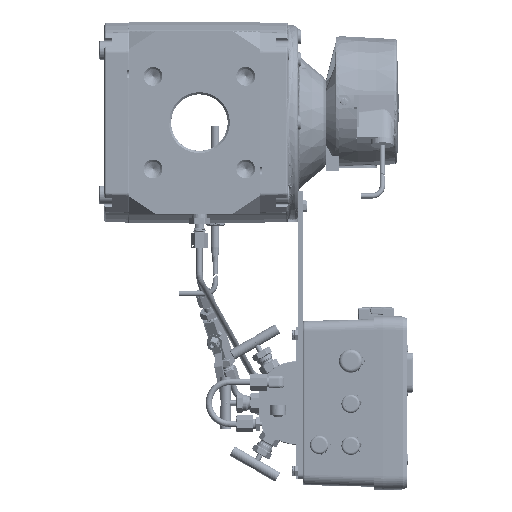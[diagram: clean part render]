
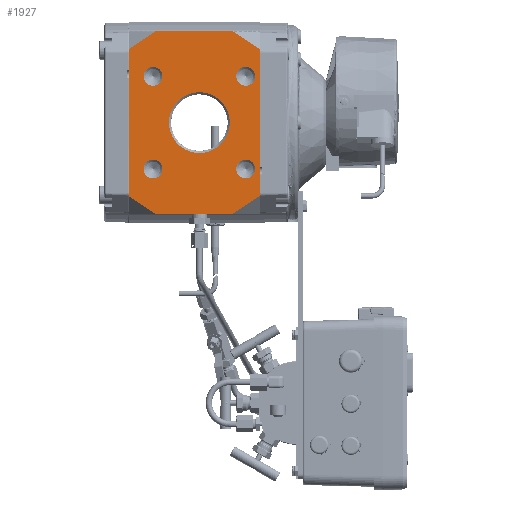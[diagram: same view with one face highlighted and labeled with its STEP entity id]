
A CAD part, left-side view. The second image highlights one B-rep face of the part: STEP entity #1927.
In plain terms, the highlighted planar face has unit normal (-1, 0, 0).
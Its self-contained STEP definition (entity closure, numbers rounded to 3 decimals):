
#1927=ADVANCED_FACE('',(#55809,#55811,#55813,#55815,#55817,#55819),#55821,.T.);
#55809=FACE_BOUND('',#55810,.T.);
#55810=EDGE_LOOP('',(#146715,#146716,#146717,#146718,#146719,#146720,#146721,#146722));
#55811=FACE_BOUND('',#55812,.T.);
#55812=EDGE_LOOP('',(#146723));
#55813=FACE_BOUND('',#55814,.T.);
#55814=EDGE_LOOP('',(#146724));
#55815=FACE_BOUND('',#55816,.T.);
#55816=EDGE_LOOP('',(#146725));
#55817=FACE_BOUND('',#55818,.T.);
#55818=EDGE_LOOP('',(#146726));
#55819=FACE_BOUND('',#55820,.T.);
#55820=EDGE_LOOP('',(#146727));
#55821=PLANE('',#55822);
#55822=AXIS2_PLACEMENT_3D('',#55823,#55824,#55825);
#55823=CARTESIAN_POINT('',(-85.5,0.,-87.));
#55824=DIRECTION('',(-1.,0.,0.));
#55825=DIRECTION('',(0.,0.,1.));
#146715=ORIENTED_EDGE('',*,*,#178311,.T.);
#146716=ORIENTED_EDGE('',*,*,#178002,.F.);
#146717=ORIENTED_EDGE('',*,*,#178298,.T.);
#146718=ORIENTED_EDGE('',*,*,#178312,.F.);
#146719=ORIENTED_EDGE('',*,*,#178313,.T.);
#146720=ORIENTED_EDGE('',*,*,#178314,.T.);
#146721=ORIENTED_EDGE('',*,*,#178315,.T.);
#146722=ORIENTED_EDGE('',*,*,#178316,.T.);
#146723=ORIENTED_EDGE('',*,*,#178317,.T.);
#146724=ORIENTED_EDGE('',*,*,#178318,.T.);
#146725=ORIENTED_EDGE('',*,*,#178319,.T.);
#146726=ORIENTED_EDGE('',*,*,#178320,.T.);
#146727=ORIENTED_EDGE('',*,*,#178321,.T.);
#178002=EDGE_CURVE('',#192219,#192221,#192222,.T.);
#178298=EDGE_CURVE('',#192219,#192734,#192735,.T.);
#178311=EDGE_CURVE('',#192759,#192221,#192760,.T.);
#178312=EDGE_CURVE('',#192761,#192734,#192762,.T.);
#178313=EDGE_CURVE('',#192761,#192763,#192764,.T.);
#178314=EDGE_CURVE('',#192763,#192765,#192766,.T.);
#178315=EDGE_CURVE('',#192765,#192767,#192768,.T.);
#178316=EDGE_CURVE('',#192767,#192759,#192769,.T.);
#178317=EDGE_CURVE('',#192770,#192770,#192771,.T.);
#178318=EDGE_CURVE('',#192772,#192772,#192773,.T.);
#178319=EDGE_CURVE('',#192774,#192774,#192775,.T.);
#178320=EDGE_CURVE('',#192776,#192776,#192777,.T.);
#178321=EDGE_CURVE('',#192778,#192778,#192779,.T.);
#192219=VERTEX_POINT('',#216354);
#192221=VERTEX_POINT('',#216358);
#192222=LINE('',#216359,#216360);
#192734=VERTEX_POINT('',#218286);
#192735=LINE('',#218287,#218288);
#192759=VERTEX_POINT('',#218348);
#192760=LINE('',#218349,#218350);
#192761=VERTEX_POINT('',#218352);
#192762=LINE('',#218353,#218354);
#192763=VERTEX_POINT('',#218356);
#192764=LINE('',#218357,#218358);
#192765=VERTEX_POINT('',#218360);
#192766=LINE('',#218361,#218362);
#192767=VERTEX_POINT('',#218364);
#192768=LINE('',#218365,#218366);
#192769=LINE('',#218368,#218369);
#192770=VERTEX_POINT('',#218371);
#192771=CIRCLE('',#218372,29.);
#192772=VERTEX_POINT('',#218376);
#192773=CIRCLE('',#218377,9.);
#192774=VERTEX_POINT('',#218381);
#192775=CIRCLE('',#218382,9.);
#192776=VERTEX_POINT('',#218386);
#192777=CIRCLE('',#218387,9.);
#192778=VERTEX_POINT('',#218391);
#192779=CIRCLE('',#218392,9.);
#216354=CARTESIAN_POINT('',(-85.5,125.,-70.));
#216358=CARTESIAN_POINT('',(-85.5,125.,70.));
#216359=CARTESIAN_POINT('',(-85.5,125.,-70.));
#216360=VECTOR('',#216361,1.);
#216361=DIRECTION('',(0.,0.,1.));
#218286=CARTESIAN_POINT('',(-85.5,99.512,-87.));
#218287=CARTESIAN_POINT('',(-85.5,125.,-70.));
#218288=VECTOR('',#218289,1.);
#218289=DIRECTION('',(0.,-0.832,-0.555));
#218348=CARTESIAN_POINT('',(-85.5,99.512,87.));
#218349=CARTESIAN_POINT('',(-85.5,99.512,87.));
#218350=VECTOR('',#218351,1.);
#218351=DIRECTION('',(0.,0.832,-0.555));
#218352=CARTESIAN_POINT('',(-85.5,25.488,-87.));
#218353=CARTESIAN_POINT('',(-85.5,25.488,-87.));
#218354=VECTOR('',#218355,1.);
#218355=DIRECTION('',(0.,1.,0.));
#218356=CARTESIAN_POINT('',(-85.5,0.,-70.));
#218357=CARTESIAN_POINT('',(-85.5,25.488,-87.));
#218358=VECTOR('',#218359,1.);
#218359=DIRECTION('',(0.,-0.832,0.555));
#218360=CARTESIAN_POINT('',(-85.5,0.,70.));
#218361=CARTESIAN_POINT('',(-85.5,0.,-70.));
#218362=VECTOR('',#218363,1.);
#218363=DIRECTION('',(0.,0.,1.));
#218364=CARTESIAN_POINT('',(-85.5,25.488,87.));
#218365=CARTESIAN_POINT('',(-85.5,0.,70.));
#218366=VECTOR('',#218367,1.);
#218367=DIRECTION('',(0.,0.832,0.555));
#218368=CARTESIAN_POINT('',(-85.5,25.488,87.));
#218369=VECTOR('',#218370,1.);
#218370=DIRECTION('',(0.,1.,0.));
#218371=CARTESIAN_POINT('',(-85.5,57.5,29.));
#218372=AXIS2_PLACEMENT_3D('',#218373,#218374,#218375);
#218373=CARTESIAN_POINT('',(-85.5,57.5,0.));
#218374=DIRECTION('',(1.,0.,0.));
#218375=DIRECTION('',(0.,0.,1.));
#218376=CARTESIAN_POINT('',(-85.5,101.7,53.2));
#218377=AXIS2_PLACEMENT_3D('',#218378,#218379,#218380);
#218378=CARTESIAN_POINT('',(-85.5,101.7,44.2));
#218379=DIRECTION('',(1.,0.,0.));
#218380=DIRECTION('',(0.,0.,1.));
#218381=CARTESIAN_POINT('',(-85.5,13.3,-53.2));
#218382=AXIS2_PLACEMENT_3D('',#218383,#218384,#218385);
#218383=CARTESIAN_POINT('',(-85.5,13.3,-44.2));
#218384=DIRECTION('',(1.,0.,0.));
#218385=DIRECTION('',(0.,0.,-1.));
#218386=CARTESIAN_POINT('',(-85.5,110.7,-44.2));
#218387=AXIS2_PLACEMENT_3D('',#218388,#218389,#218390);
#218388=CARTESIAN_POINT('',(-85.5,101.7,-44.2));
#218389=DIRECTION('',(1.,0.,0.));
#218390=DIRECTION('',(0.,1.,0.));
#218391=CARTESIAN_POINT('',(-85.5,4.3,44.2));
#218392=AXIS2_PLACEMENT_3D('',#218393,#218394,#218395);
#218393=CARTESIAN_POINT('',(-85.5,13.3,44.2));
#218394=DIRECTION('',(1.,0.,0.));
#218395=DIRECTION('',(0.,-1.,0.));
